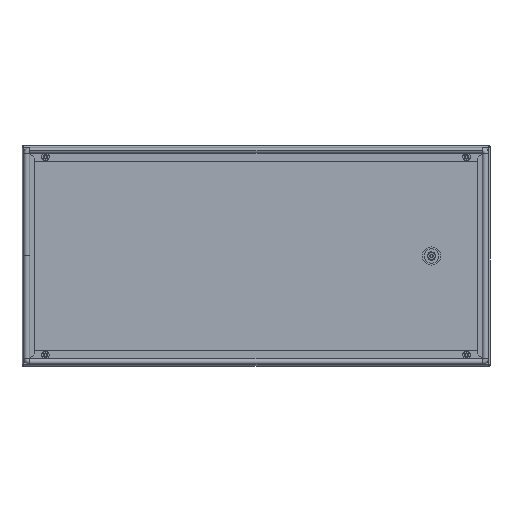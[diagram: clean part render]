
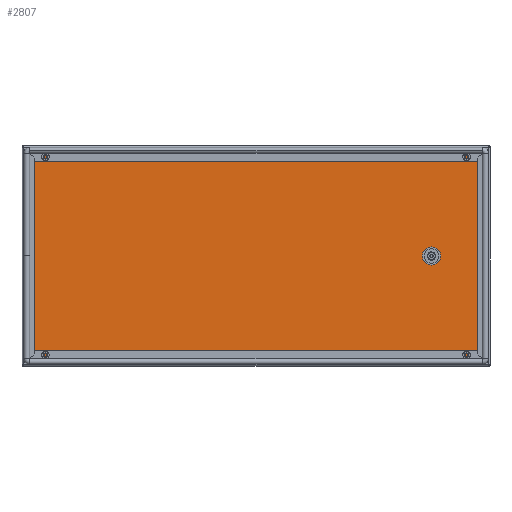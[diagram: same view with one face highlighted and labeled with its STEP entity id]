
A CAD part, top view. The second image highlights one B-rep face of the part: STEP entity #2807.
In plain terms, the highlighted planar face has unit normal (0, 0, 1).
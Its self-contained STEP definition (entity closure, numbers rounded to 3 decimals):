
#121 = AXIS2_PLACEMENT_3D ( 'NONE', #11369, #4083, #2981 ) ;
#200 = LINE ( 'NONE', #10428, #1902 ) ;
#619 = ORIENTED_EDGE ( 'NONE', *, *, #3111, .F. ) ;
#711 = VERTEX_POINT ( 'NONE', #2150 ) ;
#799 = VECTOR ( 'NONE', #2960, 1000. ) ;
#896 = AXIS2_PLACEMENT_3D ( 'NONE', #2808, #4889, #12125 ) ;
#926 = ORIENTED_EDGE ( 'NONE', *, *, #4406, .F. ) ;
#1004 = VERTEX_POINT ( 'NONE', #11205 ) ;
#1023 = ORIENTED_EDGE ( 'NONE', *, *, #11287, .F. ) ;
#1239 = VERTEX_POINT ( 'NONE', #1498 ) ;
#1409 = EDGE_CURVE ( 'NONE', #1239, #9636, #11272, .T. ) ;
#1498 = CARTESIAN_POINT ( 'NONE',  ( 396.5, 185.6, 1.4 ) ) ;
#1506 = CIRCLE ( 'NONE', #3083, 0.6 ) ;
#1902 = VECTOR ( 'NONE', #7752, 1000. ) ;
#2146 = CARTESIAN_POINT ( 'NONE',  ( -397.1, 185.6, 1.4 ) ) ;
#2150 = CARTESIAN_POINT ( 'NONE',  ( -396.5, -185.6, 1.4 ) ) ;
#2217 = VERTEX_POINT ( 'NONE', #4785 ) ;
#2375 = ORIENTED_EDGE ( 'NONE', *, *, #3849, .F. ) ;
#2487 = DIRECTION ( 'NONE',  ( 1., 0., 0. ) ) ;
#2807 = ADVANCED_FACE ( 'NONE', ( #4116, #11576 ), #6920, .T. ) ;
#2808 = CARTESIAN_POINT ( 'NONE',  ( 397.1, 185.6, 1.4 ) ) ;
#2960 = DIRECTION ( 'NONE',  ( 0., 1., 0. ) ) ;
#2981 = DIRECTION ( 'NONE',  ( 1., 0., 0. ) ) ;
#3019 = EDGE_LOOP ( 'NONE', ( #9054, #926 ) ) ;
#3083 = AXIS2_PLACEMENT_3D ( 'NONE', #5398, #9120, #2487 ) ;
#3087 = CARTESIAN_POINT ( 'NONE',  ( 300., 0., 1.4 ) ) ;
#3095 = EDGE_CURVE ( 'NONE', #711, #11871, #5442, .T. ) ;
#3102 = DIRECTION ( 'NONE',  ( 0., 0., 1. ) ) ;
#3111 = EDGE_CURVE ( 'NONE', #9636, #1004, #200, .T. ) ;
#3265 = CARTESIAN_POINT ( 'NONE',  ( -398.459, 185.6, 1.4 ) ) ;
#3354 = AXIS2_PLACEMENT_3D ( 'NONE', #2146, #9493, #3950 ) ;
#3526 = EDGE_CURVE ( 'NONE', #2217, #1239, #7985, .T. ) ;
#3849 = EDGE_CURVE ( 'NONE', #1004, #9831, #1506, .T. ) ;
#3896 = LINE ( 'NONE', #5836, #799 ) ;
#3950 = DIRECTION ( 'NONE',  ( 1., 0., 0. ) ) ;
#4083 = DIRECTION ( 'NONE',  ( 0., 0., 1. ) ) ;
#4116 = FACE_OUTER_BOUND ( 'NONE', #9708, .T. ) ;
#4152 = CARTESIAN_POINT ( 'NONE',  ( 397.1, 185., 1.4 ) ) ;
#4340 = ORIENTED_EDGE ( 'NONE', *, *, #3095, .F. ) ;
#4406 = EDGE_CURVE ( 'NONE', #8875, #9428, #7793, .T. ) ;
#4556 = CARTESIAN_POINT ( 'NONE',  ( 398.459, -185.6, 1.4 ) ) ;
#4785 = CARTESIAN_POINT ( 'NONE',  ( -396.5, 185.6, 1.4 ) ) ;
#4812 = VERTEX_POINT ( 'NONE', #10909 ) ;
#4845 = ORIENTED_EDGE ( 'NONE', *, *, #11265, .F. ) ;
#4889 = DIRECTION ( 'NONE',  ( 0., 0., 1. ) ) ;
#5275 = ORIENTED_EDGE ( 'NONE', *, *, #1409, .F. ) ;
#5332 = VECTOR ( 'NONE', #12076, 1000. ) ;
#5398 = CARTESIAN_POINT ( 'NONE',  ( 397.1, -185.6, 1.4 ) ) ;
#5442 = CIRCLE ( 'NONE', #121, 0.6 ) ;
#5690 = CARTESIAN_POINT ( 'NONE',  ( 315.5, 0., 1.4 ) ) ;
#5760 = ORIENTED_EDGE ( 'NONE', *, *, #12115, .F. ) ;
#5836 = CARTESIAN_POINT ( 'NONE',  ( -397.1, -186.959, 1.4 ) ) ;
#6192 = DIRECTION ( 'NONE',  ( 1., 0., 0. ) ) ;
#6445 = LINE ( 'NONE', #4556, #5332 ) ;
#6478 = AXIS2_PLACEMENT_3D ( 'NONE', #11316, #3102, #10439 ) ;
#6714 = EDGE_CURVE ( 'NONE', #9428, #8875, #7838, .T. ) ;
#6804 = VECTOR ( 'NONE', #11713, 1000. ) ;
#6920 = PLANE ( 'NONE',  #7400 ) ;
#6949 = DIRECTION ( 'NONE',  ( 0., 0., 1. ) ) ;
#7400 = AXIS2_PLACEMENT_3D ( 'NONE', #10633, #11020, #6192 ) ;
#7594 = AXIS2_PLACEMENT_3D ( 'NONE', #3087, #6949, #10543 ) ;
#7752 = DIRECTION ( 'NONE',  ( 0., -1., 0. ) ) ;
#7793 = CIRCLE ( 'NONE', #7594, 15.5 ) ;
#7838 = CIRCLE ( 'NONE', #6478, 15.5 ) ;
#7985 = LINE ( 'NONE', #3265, #6804 ) ;
#8535 = CARTESIAN_POINT ( 'NONE',  ( 396.5, -185.6, 1.4 ) ) ;
#8875 = VERTEX_POINT ( 'NONE', #11505 ) ;
#9054 = ORIENTED_EDGE ( 'NONE', *, *, #6714, .F. ) ;
#9120 = DIRECTION ( 'NONE',  ( 0., 0., 1. ) ) ;
#9403 = CIRCLE ( 'NONE', #3354, 0.6 ) ;
#9428 = VERTEX_POINT ( 'NONE', #5690 ) ;
#9493 = DIRECTION ( 'NONE',  ( 0., 0., 1. ) ) ;
#9636 = VERTEX_POINT ( 'NONE', #4152 ) ;
#9708 = EDGE_LOOP ( 'NONE', ( #11987, #4845, #1023, #4340, #5760, #2375, #619, #5275 ) ) ;
#9831 = VERTEX_POINT ( 'NONE', #8535 ) ;
#10428 = CARTESIAN_POINT ( 'NONE',  ( 397.1, 186.959, 1.4 ) ) ;
#10439 = DIRECTION ( 'NONE',  ( 1., 0., 0. ) ) ;
#10456 = CARTESIAN_POINT ( 'NONE',  ( -397.1, -185., 1.4 ) ) ;
#10543 = DIRECTION ( 'NONE',  ( 1., 0., 0. ) ) ;
#10633 = CARTESIAN_POINT ( 'NONE',  ( 0., 0., 1.4 ) ) ;
#10909 = CARTESIAN_POINT ( 'NONE',  ( -397.1, 185., 1.4 ) ) ;
#11020 = DIRECTION ( 'NONE',  ( 0., 0., 1. ) ) ;
#11205 = CARTESIAN_POINT ( 'NONE',  ( 397.1, -185., 1.4 ) ) ;
#11265 = EDGE_CURVE ( 'NONE', #4812, #2217, #9403, .T. ) ;
#11272 = CIRCLE ( 'NONE', #896, 0.6 ) ;
#11287 = EDGE_CURVE ( 'NONE', #11871, #4812, #3896, .T. ) ;
#11316 = CARTESIAN_POINT ( 'NONE',  ( 300., 0., 1.4 ) ) ;
#11369 = CARTESIAN_POINT ( 'NONE',  ( -397.1, -185.6, 1.4 ) ) ;
#11505 = CARTESIAN_POINT ( 'NONE',  ( 284.5, 0., 1.4 ) ) ;
#11576 = FACE_BOUND ( 'NONE', #3019, .T. ) ;
#11713 = DIRECTION ( 'NONE',  ( 1., 0., 0. ) ) ;
#11871 = VERTEX_POINT ( 'NONE', #10456 ) ;
#11987 = ORIENTED_EDGE ( 'NONE', *, *, #3526, .F. ) ;
#12076 = DIRECTION ( 'NONE',  ( -1., 0., 0. ) ) ;
#12115 = EDGE_CURVE ( 'NONE', #9831, #711, #6445, .T. ) ;
#12125 = DIRECTION ( 'NONE',  ( 1., 0., 0. ) ) ;
